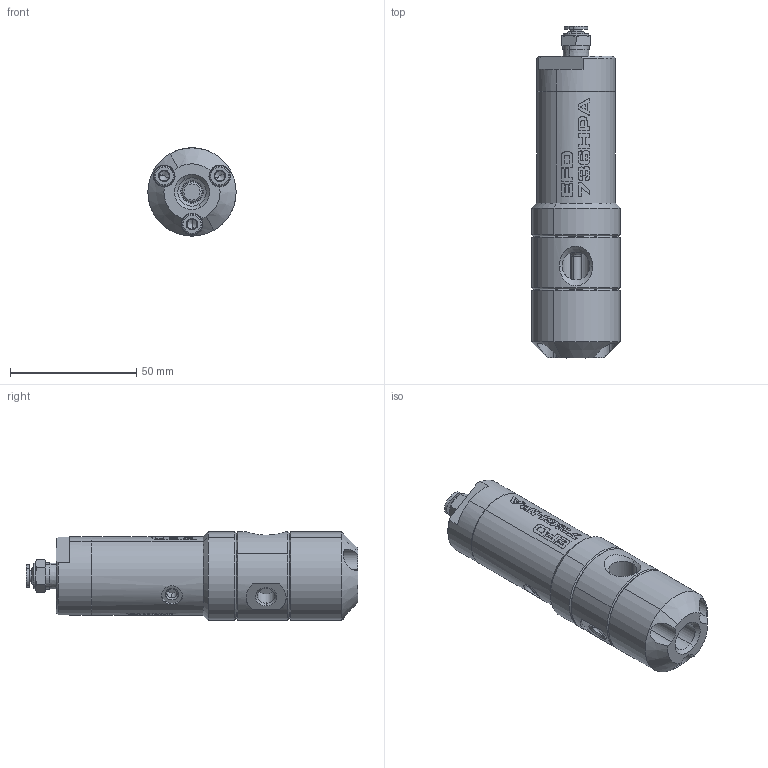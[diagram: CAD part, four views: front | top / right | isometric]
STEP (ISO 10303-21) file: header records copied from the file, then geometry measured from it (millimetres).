
FILE_DESCRIPTION (( 'STEP AP214' ), '1' );
FILE_NAME ('NORDSONEFD-7013449 736HPA-NV HIGH PRESSURE SPOOL VALVE.STEP', '2018-12-20T03:53:25', ( '' ), ( '' ), 'SwSTEP 2.0', 'SolidWorks 2018', '' );
FILE_SCHEMA (( 'AUTOMOTIVE_DESIGN' ));
Length unit declared in the file: inch
Products named in the file (1): NORDSONEFD-7013449 736HPA-NV HIGH PRESSURE SPOOL VALVE
Bounding box: 34.92 x 131.24 x 34.92 mm (x, y, z)
Volume: 92969.6 mm3; surface area: 21974.2 mm2
Topology: 1 solids, 1 shells, 1156 faces, 3035 edges, 1971 vertices
Faces by surface type: plane 476, bspline 382, cylinder 176, cone 100, torus 22
Entity records: 57911 total; most frequent: CARTESIAN_POINT 28534, ORIENTED_EDGE 6058, DIRECTION 4080, EDGE_CURVE 3029, VERTEX_POINT 1971, LINE 1386, VECTOR 1386, AXIS2_PLACEMENT_3D 1347
